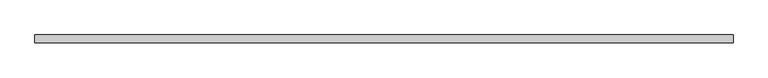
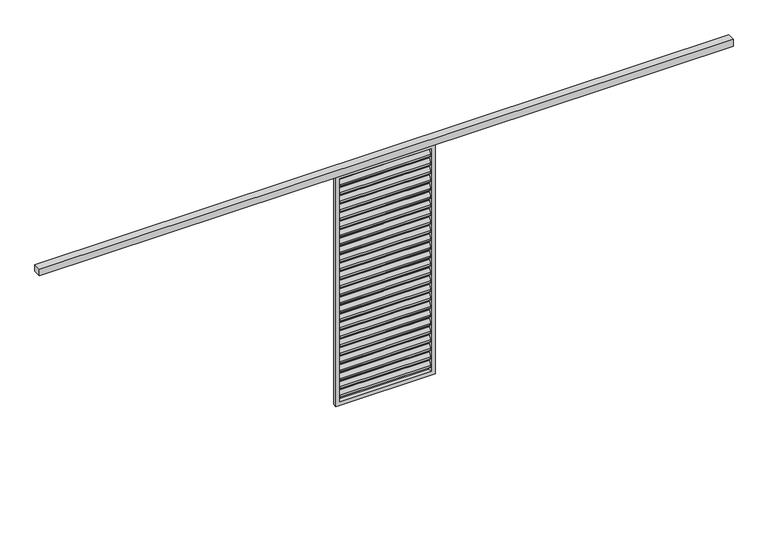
"""IFC4 building model written with IfcOpenShell, lengths in millimetres: proxy geometry, Renson_Amani_Loggia_Paro_Aluminium_Fix : Renson_Amani_Loggia_Paro_Aluminium_Fix."""

from ifc_helpers import new_model, si_unit, point, frame, frame_2d, origin, place, context, project, spatial, polyline, circle_curve, trimmed, segment, composite_curve, outline, extrude, source, transform, mapped, element, save


def generic_models_a1b20559(model_context):
    return source(origin(), model_context, "Body", "SweptSolid", [
        extrude(outline(polyline([(3500.0, 46.0), (3500.0, -34.0), (-3500.0, -34.0), (-3500.0, 46.0), (3500.0, 46.0)])), frame((0.0, 0.0, 2500.0), z_axis=(0.0, 0.0, 1.0), x_axis=(1.0, 0.0, 0.0)), (0.0, 0.0, 1.0), 70.0),
        extrude(outline(composite_curve([segment(trimmed(circle_curve(frame_2d((12.6675921, 2432.6587719)), 3.0), [point((10.1515804, 2434.292689))], [point((15.6675921, 2432.6587719))], False, "CARTESIAN"), True, "CONTINUOUS"), segment(polyline([(15.6675921, 2432.6587719), (15.6675921, 2414.2979873)]), True, "CONTINUOUS"), segment(trimmed(circle_curve(frame_2d((12.6675921, 2414.2979873)), 3.0), [point((15.6675921, 2414.2979873))], [point((15.1836038, 2412.6640702))], False, "CARTESIAN"), True, "CONTINUOUS"), segment(polyline([(15.1836038, 2412.6640702), (-8.8163962, 2375.707311)]), True, "CONTINUOUS"), segment(trimmed(circle_curve(frame_2d((-11.3324079, 2377.3412281)), 3.0), [point((-8.8163962, 2375.707311))], [point((-14.3324079, 2377.3412281))], False, "CARTESIAN"), True, "CONTINUOUS"), segment(polyline([(-14.3324079, 2377.3412281), (-14.3324079, 2396.5906532), (10.1515804, 2434.292689)]), True, "CONTINUOUS")], self_intersect=False)), frame((-460.0, 0.0, 0.0), z_axis=(1.0, 0.0, 0.0), x_axis=(0.0, 1.0, 0.0)), (0.0, 0.0, 1.0), 920.0),
        extrude(outline(composite_curve([segment(trimmed(circle_curve(frame_2d((12.6675921, 2342.6587719)), 3.0), [point((10.1515804, 2344.292689))], [point((15.6675921, 2342.6587719))], False, "CARTESIAN"), True, "CONTINUOUS"), segment(polyline([(15.6675921, 2342.6587719), (15.6675921, 2324.2979873)]), True, "CONTINUOUS"), segment(trimmed(circle_curve(frame_2d((12.6675921, 2324.2979873)), 3.0), [point((15.6675921, 2324.2979873))], [point((15.1836038, 2322.6640702))], False, "CARTESIAN"), True, "CONTINUOUS"), segment(polyline([(15.1836038, 2322.6640702), (-8.8163962, 2285.707311)]), True, "CONTINUOUS"), segment(trimmed(circle_curve(frame_2d((-11.3324079, 2287.3412281)), 3.0), [point((-8.8163962, 2285.707311))], [point((-14.3324079, 2287.3412281))], False, "CARTESIAN"), True, "CONTINUOUS"), segment(polyline([(-14.3324079, 2287.3412281), (-14.3324079, 2306.5906532), (10.1515804, 2344.292689)]), True, "CONTINUOUS")], self_intersect=False)), frame((-460.0, 0.0, 0.0), z_axis=(1.0, 0.0, 0.0), x_axis=(0.0, 1.0, 0.0)), (0.0, 0.0, 1.0), 920.0),
        extrude(outline(composite_curve([segment(trimmed(circle_curve(frame_2d((12.6675921, 2252.6587719)), 3.0), [point((10.1515804, 2254.292689))], [point((15.6675921, 2252.6587719))], False, "CARTESIAN"), True, "CONTINUOUS"), segment(polyline([(15.6675921, 2252.6587719), (15.6675921, 2234.2979873)]), True, "CONTINUOUS"), segment(trimmed(circle_curve(frame_2d((12.6675921, 2234.2979873)), 3.0), [point((15.6675921, 2234.2979873))], [point((15.1836038, 2232.6640702))], False, "CARTESIAN"), True, "CONTINUOUS"), segment(polyline([(15.1836038, 2232.6640702), (-8.8163962, 2195.707311)]), True, "CONTINUOUS"), segment(trimmed(circle_curve(frame_2d((-11.3324079, 2197.3412281)), 3.0), [point((-8.8163962, 2195.707311))], [point((-14.3324079, 2197.3412281))], False, "CARTESIAN"), True, "CONTINUOUS"), segment(polyline([(-14.3324079, 2197.3412281), (-14.3324079, 2216.5906532), (10.1515804, 2254.292689)]), True, "CONTINUOUS")], self_intersect=False)), frame((-460.0, 0.0, 0.0), z_axis=(1.0, 0.0, 0.0), x_axis=(0.0, 1.0, 0.0)), (0.0, 0.0, 1.0), 920.0),
        extrude(outline(composite_curve([segment(trimmed(circle_curve(frame_2d((12.6675921, 2162.6587719)), 3.0), [point((10.1515804, 2164.292689))], [point((15.6675921, 2162.6587719))], False, "CARTESIAN"), True, "CONTINUOUS"), segment(polyline([(15.6675921, 2162.6587719), (15.6675921, 2144.2979873)]), True, "CONTINUOUS"), segment(trimmed(circle_curve(frame_2d((12.6675921, 2144.2979873)), 3.0), [point((15.6675921, 2144.2979873))], [point((15.1836038, 2142.6640702))], False, "CARTESIAN"), True, "CONTINUOUS"), segment(polyline([(15.1836038, 2142.6640702), (-8.8163962, 2105.707311)]), True, "CONTINUOUS"), segment(trimmed(circle_curve(frame_2d((-11.3324079, 2107.3412281)), 3.0), [point((-8.8163962, 2105.707311))], [point((-14.3324079, 2107.3412281))], False, "CARTESIAN"), True, "CONTINUOUS"), segment(polyline([(-14.3324079, 2107.3412281), (-14.3324079, 2126.5906532), (10.1515804, 2164.292689)]), True, "CONTINUOUS")], self_intersect=False)), frame((-460.0, 0.0, 0.0), z_axis=(1.0, 0.0, 0.0), x_axis=(0.0, 1.0, 0.0)), (0.0, 0.0, 1.0), 920.0),
        extrude(outline(composite_curve([segment(trimmed(circle_curve(frame_2d((12.6675921, 2072.6587719)), 3.0), [point((10.1515804, 2074.292689))], [point((15.6675921, 2072.6587719))], False, "CARTESIAN"), True, "CONTINUOUS"), segment(polyline([(15.6675921, 2072.6587719), (15.6675921, 2054.2979873)]), True, "CONTINUOUS"), segment(trimmed(circle_curve(frame_2d((12.6675921, 2054.2979873)), 3.0), [point((15.6675921, 2054.2979873))], [point((15.1836038, 2052.6640702))], False, "CARTESIAN"), True, "CONTINUOUS"), segment(polyline([(15.1836038, 2052.6640702), (-8.8163962, 2015.707311)]), True, "CONTINUOUS"), segment(trimmed(circle_curve(frame_2d((-11.3324079, 2017.3412281)), 3.0), [point((-8.8163962, 2015.707311))], [point((-14.3324079, 2017.3412281))], False, "CARTESIAN"), True, "CONTINUOUS"), segment(polyline([(-14.3324079, 2017.3412281), (-14.3324079, 2036.5906532), (10.1515804, 2074.292689)]), True, "CONTINUOUS")], self_intersect=False)), frame((-460.0, 0.0, 0.0), z_axis=(1.0, 0.0, 0.0), x_axis=(0.0, 1.0, 0.0)), (0.0, 0.0, 1.0), 920.0),
        extrude(outline(composite_curve([segment(trimmed(circle_curve(frame_2d((12.6675921, 1982.6587719)), 3.0), [point((10.1515804, 1984.292689))], [point((15.6675921, 1982.6587719))], False, "CARTESIAN"), True, "CONTINUOUS"), segment(polyline([(15.6675921, 1982.6587719), (15.6675921, 1964.2979873)]), True, "CONTINUOUS"), segment(trimmed(circle_curve(frame_2d((12.6675921, 1964.2979873)), 3.0), [point((15.6675921, 1964.2979873))], [point((15.1836038, 1962.6640702))], False, "CARTESIAN"), True, "CONTINUOUS"), segment(polyline([(15.1836038, 1962.6640702), (-8.8163962, 1925.707311)]), True, "CONTINUOUS"), segment(trimmed(circle_curve(frame_2d((-11.3324079, 1927.3412281)), 3.0), [point((-8.8163962, 1925.707311))], [point((-14.3324079, 1927.3412281))], False, "CARTESIAN"), True, "CONTINUOUS"), segment(polyline([(-14.3324079, 1927.3412281), (-14.3324079, 1946.5906532), (10.1515804, 1984.292689)]), True, "CONTINUOUS")], self_intersect=False)), frame((-460.0, 0.0, 0.0), z_axis=(1.0, 0.0, 0.0), x_axis=(0.0, 1.0, 0.0)), (0.0, 0.0, 1.0), 920.0),
        extrude(outline(composite_curve([segment(trimmed(circle_curve(frame_2d((12.6675921, 1892.6587719)), 3.0), [point((10.1515804, 1894.292689))], [point((15.6675921, 1892.6587719))], False, "CARTESIAN"), True, "CONTINUOUS"), segment(polyline([(15.6675921, 1892.6587719), (15.6675921, 1874.2979873)]), True, "CONTINUOUS"), segment(trimmed(circle_curve(frame_2d((12.6675921, 1874.2979873)), 3.0), [point((15.6675921, 1874.2979873))], [point((15.1836038, 1872.6640702))], False, "CARTESIAN"), True, "CONTINUOUS"), segment(polyline([(15.1836038, 1872.6640702), (-8.8163962, 1835.707311)]), True, "CONTINUOUS"), segment(trimmed(circle_curve(frame_2d((-11.3324079, 1837.3412281)), 3.0), [point((-8.8163962, 1835.707311))], [point((-14.3324079, 1837.3412281))], False, "CARTESIAN"), True, "CONTINUOUS"), segment(polyline([(-14.3324079, 1837.3412281), (-14.3324079, 1856.5906532), (10.1515804, 1894.292689)]), True, "CONTINUOUS")], self_intersect=False)), frame((-460.0, 0.0, 0.0), z_axis=(1.0, 0.0, 0.0), x_axis=(0.0, 1.0, 0.0)), (0.0, 0.0, 1.0), 920.0),
        extrude(outline(composite_curve([segment(trimmed(circle_curve(frame_2d((12.6675921, 1802.6587719)), 3.0), [point((10.1515804, 1804.292689))], [point((15.6675921, 1802.6587719))], False, "CARTESIAN"), True, "CONTINUOUS"), segment(polyline([(15.6675921, 1802.6587719), (15.6675921, 1784.2979873)]), True, "CONTINUOUS"), segment(trimmed(circle_curve(frame_2d((12.6675921, 1784.2979873)), 3.0), [point((15.6675921, 1784.2979873))], [point((15.1836038, 1782.6640702))], False, "CARTESIAN"), True, "CONTINUOUS"), segment(polyline([(15.1836038, 1782.6640702), (-8.8163962, 1745.707311)]), True, "CONTINUOUS"), segment(trimmed(circle_curve(frame_2d((-11.3324079, 1747.3412281)), 3.0), [point((-8.8163962, 1745.707311))], [point((-14.3324079, 1747.3412281))], False, "CARTESIAN"), True, "CONTINUOUS"), segment(polyline([(-14.3324079, 1747.3412281), (-14.3324079, 1766.5906532), (10.1515804, 1804.292689)]), True, "CONTINUOUS")], self_intersect=False)), frame((-460.0, 0.0, 0.0), z_axis=(1.0, 0.0, 0.0), x_axis=(0.0, 1.0, 0.0)), (0.0, 0.0, 1.0), 920.0),
        extrude(outline(composite_curve([segment(trimmed(circle_curve(frame_2d((12.6675921, 1712.6587719)), 3.0), [point((10.1515804, 1714.292689))], [point((15.6675921, 1712.6587719))], False, "CARTESIAN"), True, "CONTINUOUS"), segment(polyline([(15.6675921, 1712.6587719), (15.6675921, 1694.2979873)]), True, "CONTINUOUS"), segment(trimmed(circle_curve(frame_2d((12.6675921, 1694.2979873)), 3.0), [point((15.6675921, 1694.2979873))], [point((15.1836038, 1692.6640702))], False, "CARTESIAN"), True, "CONTINUOUS"), segment(polyline([(15.1836038, 1692.6640702), (-8.8163962, 1655.707311)]), True, "CONTINUOUS"), segment(trimmed(circle_curve(frame_2d((-11.3324079, 1657.3412281)), 3.0), [point((-8.8163962, 1655.707311))], [point((-14.3324079, 1657.3412281))], False, "CARTESIAN"), True, "CONTINUOUS"), segment(polyline([(-14.3324079, 1657.3412281), (-14.3324079, 1676.5906532), (10.1515804, 1714.292689)]), True, "CONTINUOUS")], self_intersect=False)), frame((-460.0, 0.0, 0.0), z_axis=(1.0, 0.0, 0.0), x_axis=(0.0, 1.0, 0.0)), (0.0, 0.0, 1.0), 920.0),
        extrude(outline(composite_curve([segment(trimmed(circle_curve(frame_2d((12.6675921, 1622.6587719)), 3.0), [point((10.1515804, 1624.292689))], [point((15.6675921, 1622.6587719))], False, "CARTESIAN"), True, "CONTINUOUS"), segment(polyline([(15.6675921, 1622.6587719), (15.6675921, 1604.2979873)]), True, "CONTINUOUS"), segment(trimmed(circle_curve(frame_2d((12.6675921, 1604.2979873)), 3.0), [point((15.6675921, 1604.2979873))], [point((15.1836038, 1602.6640702))], False, "CARTESIAN"), True, "CONTINUOUS"), segment(polyline([(15.1836038, 1602.6640702), (-8.8163962, 1565.707311)]), True, "CONTINUOUS"), segment(trimmed(circle_curve(frame_2d((-11.3324079, 1567.3412281)), 3.0), [point((-8.8163962, 1565.707311))], [point((-14.3324079, 1567.3412281))], False, "CARTESIAN"), True, "CONTINUOUS"), segment(polyline([(-14.3324079, 1567.3412281), (-14.3324079, 1586.5906532), (10.1515804, 1624.292689)]), True, "CONTINUOUS")], self_intersect=False)), frame((-460.0, 0.0, 0.0), z_axis=(1.0, 0.0, 0.0), x_axis=(0.0, 1.0, 0.0)), (0.0, 0.0, 1.0), 920.0),
        extrude(outline(composite_curve([segment(trimmed(circle_curve(frame_2d((12.6675921, 1532.6587719)), 3.0), [point((10.1515804, 1534.292689))], [point((15.6675921, 1532.6587719))], False, "CARTESIAN"), True, "CONTINUOUS"), segment(polyline([(15.6675921, 1532.6587719), (15.6675921, 1514.2979873)]), True, "CONTINUOUS"), segment(trimmed(circle_curve(frame_2d((12.6675921, 1514.2979873)), 3.0), [point((15.6675921, 1514.2979873))], [point((15.1836038, 1512.6640702))], False, "CARTESIAN"), True, "CONTINUOUS"), segment(polyline([(15.1836038, 1512.6640702), (-8.8163962, 1475.707311)]), True, "CONTINUOUS"), segment(trimmed(circle_curve(frame_2d((-11.3324079, 1477.3412281)), 3.0), [point((-8.8163962, 1475.707311))], [point((-14.3324079, 1477.3412281))], False, "CARTESIAN"), True, "CONTINUOUS"), segment(polyline([(-14.3324079, 1477.3412281), (-14.3324079, 1496.5906532), (10.1515804, 1534.292689)]), True, "CONTINUOUS")], self_intersect=False)), frame((-460.0, 0.0, 0.0), z_axis=(1.0, 0.0, 0.0), x_axis=(0.0, 1.0, 0.0)), (0.0, 0.0, 1.0), 920.0),
        extrude(outline(composite_curve([segment(trimmed(circle_curve(frame_2d((12.6675921, 1442.6587719)), 3.0), [point((10.1515804, 1444.292689))], [point((15.6675921, 1442.6587719))], False, "CARTESIAN"), True, "CONTINUOUS"), segment(polyline([(15.6675921, 1442.6587719), (15.6675921, 1424.2979873)]), True, "CONTINUOUS"), segment(trimmed(circle_curve(frame_2d((12.6675921, 1424.2979873)), 3.0), [point((15.6675921, 1424.2979873))], [point((15.1836038, 1422.6640702))], False, "CARTESIAN"), True, "CONTINUOUS"), segment(polyline([(15.1836038, 1422.6640702), (-8.8163962, 1385.707311)]), True, "CONTINUOUS"), segment(trimmed(circle_curve(frame_2d((-11.3324079, 1387.3412281)), 3.0), [point((-8.8163962, 1385.707311))], [point((-14.3324079, 1387.3412281))], False, "CARTESIAN"), True, "CONTINUOUS"), segment(polyline([(-14.3324079, 1387.3412281), (-14.3324079, 1406.5906532), (10.1515804, 1444.292689)]), True, "CONTINUOUS")], self_intersect=False)), frame((-460.0, 0.0, 0.0), z_axis=(1.0, 0.0, 0.0), x_axis=(0.0, 1.0, 0.0)), (0.0, 0.0, 1.0), 920.0),
        extrude(outline(composite_curve([segment(trimmed(circle_curve(frame_2d((12.6675921, 1352.6587719)), 3.0), [point((10.1515804, 1354.292689))], [point((15.6675921, 1352.6587719))], False, "CARTESIAN"), True, "CONTINUOUS"), segment(polyline([(15.6675921, 1352.6587719), (15.6675921, 1334.2979873)]), True, "CONTINUOUS"), segment(trimmed(circle_curve(frame_2d((12.6675921, 1334.2979873)), 3.0), [point((15.6675921, 1334.2979873))], [point((15.1836038, 1332.6640702))], False, "CARTESIAN"), True, "CONTINUOUS"), segment(polyline([(15.1836038, 1332.6640702), (-8.8163962, 1295.707311)]), True, "CONTINUOUS"), segment(trimmed(circle_curve(frame_2d((-11.3324079, 1297.3412281)), 3.0), [point((-8.8163962, 1295.707311))], [point((-14.3324079, 1297.3412281))], False, "CARTESIAN"), True, "CONTINUOUS"), segment(polyline([(-14.3324079, 1297.3412281), (-14.3324079, 1316.5906532), (10.1515804, 1354.292689)]), True, "CONTINUOUS")], self_intersect=False)), frame((-460.0, 0.0, 0.0), z_axis=(1.0, 0.0, 0.0), x_axis=(0.0, 1.0, 0.0)), (0.0, 0.0, 1.0), 920.0),
        extrude(outline(composite_curve([segment(trimmed(circle_curve(frame_2d((12.6675921, 1262.6587719)), 3.0), [point((10.1515804, 1264.292689))], [point((15.6675921, 1262.6587719))], False, "CARTESIAN"), True, "CONTINUOUS"), segment(polyline([(15.6675921, 1262.6587719), (15.6675921, 1244.2979873)]), True, "CONTINUOUS"), segment(trimmed(circle_curve(frame_2d((12.6675921, 1244.2979873)), 3.0), [point((15.6675921, 1244.2979873))], [point((15.1836038, 1242.6640702))], False, "CARTESIAN"), True, "CONTINUOUS"), segment(polyline([(15.1836038, 1242.6640702), (-8.8163962, 1205.707311)]), True, "CONTINUOUS"), segment(trimmed(circle_curve(frame_2d((-11.3324079, 1207.3412281)), 3.0), [point((-8.8163962, 1205.707311))], [point((-14.3324079, 1207.3412281))], False, "CARTESIAN"), True, "CONTINUOUS"), segment(polyline([(-14.3324079, 1207.3412281), (-14.3324079, 1226.5906532), (10.1515804, 1264.292689)]), True, "CONTINUOUS")], self_intersect=False)), frame((-460.0, 0.0, 0.0), z_axis=(1.0, 0.0, 0.0), x_axis=(0.0, 1.0, 0.0)), (0.0, 0.0, 1.0), 920.0),
        extrude(outline(composite_curve([segment(trimmed(circle_curve(frame_2d((12.6675921, 1172.6587719)), 3.0), [point((10.1515804, 1174.292689))], [point((15.6675921, 1172.6587719))], False, "CARTESIAN"), True, "CONTINUOUS"), segment(polyline([(15.6675921, 1172.6587719), (15.6675921, 1154.2979873)]), True, "CONTINUOUS"), segment(trimmed(circle_curve(frame_2d((12.6675921, 1154.2979873)), 3.0), [point((15.6675921, 1154.2979873))], [point((15.1836038, 1152.6640702))], False, "CARTESIAN"), True, "CONTINUOUS"), segment(polyline([(15.1836038, 1152.6640702), (-8.8163962, 1115.707311)]), True, "CONTINUOUS"), segment(trimmed(circle_curve(frame_2d((-11.3324079, 1117.3412281)), 3.0), [point((-8.8163962, 1115.707311))], [point((-14.3324079, 1117.3412281))], False, "CARTESIAN"), True, "CONTINUOUS"), segment(polyline([(-14.3324079, 1117.3412281), (-14.3324079, 1136.5906532), (10.1515804, 1174.292689)]), True, "CONTINUOUS")], self_intersect=False)), frame((-460.0, 0.0, 0.0), z_axis=(1.0, 0.0, 0.0), x_axis=(0.0, 1.0, 0.0)), (0.0, 0.0, 1.0), 920.0),
        extrude(outline(composite_curve([segment(trimmed(circle_curve(frame_2d((12.6675921, 1082.6587719)), 3.0), [point((10.1515804, 1084.292689))], [point((15.6675921, 1082.6587719))], False, "CARTESIAN"), True, "CONTINUOUS"), segment(polyline([(15.6675921, 1082.6587719), (15.6675921, 1064.2979873)]), True, "CONTINUOUS"), segment(trimmed(circle_curve(frame_2d((12.6675921, 1064.2979873)), 3.0), [point((15.6675921, 1064.2979873))], [point((15.1836038, 1062.6640702))], False, "CARTESIAN"), True, "CONTINUOUS"), segment(polyline([(15.1836038, 1062.6640702), (-8.8163962, 1025.707311)]), True, "CONTINUOUS"), segment(trimmed(circle_curve(frame_2d((-11.3324079, 1027.3412281)), 3.0), [point((-8.8163962, 1025.707311))], [point((-14.3324079, 1027.3412281))], False, "CARTESIAN"), True, "CONTINUOUS"), segment(polyline([(-14.3324079, 1027.3412281), (-14.3324079, 1046.5906532), (10.1515804, 1084.292689)]), True, "CONTINUOUS")], self_intersect=False)), frame((-460.0, 0.0, 0.0), z_axis=(1.0, 0.0, 0.0), x_axis=(0.0, 1.0, 0.0)), (0.0, 0.0, 1.0), 920.0),
        extrude(outline(composite_curve([segment(trimmed(circle_curve(frame_2d((12.6675921, 992.6587719)), 3.0), [point((10.1515804, 994.292689))], [point((15.6675921, 992.6587719))], False, "CARTESIAN"), True, "CONTINUOUS"), segment(polyline([(15.6675921, 992.6587719), (15.6675921, 974.2979873)]), True, "CONTINUOUS"), segment(trimmed(circle_curve(frame_2d((12.6675921, 974.2979873)), 3.0), [point((15.6675921, 974.2979873))], [point((15.1836038, 972.6640702))], False, "CARTESIAN"), True, "CONTINUOUS"), segment(polyline([(15.1836038, 972.6640702), (-8.8163962, 935.707311)]), True, "CONTINUOUS"), segment(trimmed(circle_curve(frame_2d((-11.3324079, 937.3412281)), 3.0), [point((-8.8163962, 935.707311))], [point((-14.3324079, 937.3412281))], False, "CARTESIAN"), True, "CONTINUOUS"), segment(polyline([(-14.3324079, 937.3412281), (-14.3324079, 956.5906532), (10.1515804, 994.292689)]), True, "CONTINUOUS")], self_intersect=False)), frame((-460.0, 0.0, 0.0), z_axis=(1.0, 0.0, 0.0), x_axis=(0.0, 1.0, 0.0)), (0.0, 0.0, 1.0), 920.0),
        extrude(outline(composite_curve([segment(trimmed(circle_curve(frame_2d((12.6675921, 902.6587719)), 3.0), [point((10.1515804, 904.292689))], [point((15.6675921, 902.6587719))], False, "CARTESIAN"), True, "CONTINUOUS"), segment(polyline([(15.6675921, 902.6587719), (15.6675921, 884.2979873)]), True, "CONTINUOUS"), segment(trimmed(circle_curve(frame_2d((12.6675921, 884.2979873)), 3.0), [point((15.6675921, 884.2979873))], [point((15.1836038, 882.6640702))], False, "CARTESIAN"), True, "CONTINUOUS"), segment(polyline([(15.1836038, 882.6640702), (-8.8163962, 845.707311)]), True, "CONTINUOUS"), segment(trimmed(circle_curve(frame_2d((-11.3324079, 847.3412281)), 3.0), [point((-8.8163962, 845.707311))], [point((-14.3324079, 847.3412281))], False, "CARTESIAN"), True, "CONTINUOUS"), segment(polyline([(-14.3324079, 847.3412281), (-14.3324079, 866.5906532), (10.1515804, 904.292689)]), True, "CONTINUOUS")], self_intersect=False)), frame((-460.0, 0.0, 0.0), z_axis=(1.0, 0.0, 0.0), x_axis=(0.0, 1.0, 0.0)), (0.0, 0.0, 1.0), 920.0),
        extrude(outline(composite_curve([segment(trimmed(circle_curve(frame_2d((12.6675921, 812.6587719)), 3.0), [point((10.1515804, 814.292689))], [point((15.6675921, 812.6587719))], False, "CARTESIAN"), True, "CONTINUOUS"), segment(polyline([(15.6675921, 812.6587719), (15.6675921, 794.2979873)]), True, "CONTINUOUS"), segment(trimmed(circle_curve(frame_2d((12.6675921, 794.2979873)), 3.0), [point((15.6675921, 794.2979873))], [point((15.1836038, 792.6640702))], False, "CARTESIAN"), True, "CONTINUOUS"), segment(polyline([(15.1836038, 792.6640702), (-8.8163962, 755.707311)]), True, "CONTINUOUS"), segment(trimmed(circle_curve(frame_2d((-11.3324079, 757.3412281)), 3.0), [point((-8.8163962, 755.707311))], [point((-14.3324079, 757.3412281))], False, "CARTESIAN"), True, "CONTINUOUS"), segment(polyline([(-14.3324079, 757.3412281), (-14.3324079, 776.5906532), (10.1515804, 814.292689)]), True, "CONTINUOUS")], self_intersect=False)), frame((-460.0, 0.0, 0.0), z_axis=(1.0, 0.0, 0.0), x_axis=(0.0, 1.0, 0.0)), (0.0, 0.0, 1.0), 920.0),
        extrude(outline(composite_curve([segment(trimmed(circle_curve(frame_2d((12.6675921, 722.6587719)), 3.0), [point((10.1515804, 724.292689))], [point((15.6675921, 722.6587719))], False, "CARTESIAN"), True, "CONTINUOUS"), segment(polyline([(15.6675921, 722.6587719), (15.6675921, 704.2979873)]), True, "CONTINUOUS"), segment(trimmed(circle_curve(frame_2d((12.6675921, 704.2979873)), 3.0), [point((15.6675921, 704.2979873))], [point((15.1836038, 702.6640702))], False, "CARTESIAN"), True, "CONTINUOUS"), segment(polyline([(15.1836038, 702.6640702), (-8.8163962, 665.707311)]), True, "CONTINUOUS"), segment(trimmed(circle_curve(frame_2d((-11.3324079, 667.3412281)), 3.0), [point((-8.8163962, 665.707311))], [point((-14.3324079, 667.3412281))], False, "CARTESIAN"), True, "CONTINUOUS"), segment(polyline([(-14.3324079, 667.3412281), (-14.3324079, 686.5906532), (10.1515804, 724.292689)]), True, "CONTINUOUS")], self_intersect=False)), frame((-460.0, 0.0, 0.0), z_axis=(1.0, 0.0, 0.0), x_axis=(0.0, 1.0, 0.0)), (0.0, 0.0, 1.0), 920.0),
        extrude(outline(composite_curve([segment(trimmed(circle_curve(frame_2d((12.6675921, 632.6587719)), 3.0), [point((10.1515804, 634.292689))], [point((15.6675921, 632.6587719))], False, "CARTESIAN"), True, "CONTINUOUS"), segment(polyline([(15.6675921, 632.6587719), (15.6675921, 614.2979873)]), True, "CONTINUOUS"), segment(trimmed(circle_curve(frame_2d((12.6675921, 614.2979873)), 3.0), [point((15.6675921, 614.2979873))], [point((15.1836038, 612.6640702))], False, "CARTESIAN"), True, "CONTINUOUS"), segment(polyline([(15.1836038, 612.6640702), (-8.8163962, 575.707311)]), True, "CONTINUOUS"), segment(trimmed(circle_curve(frame_2d((-11.3324079, 577.3412281)), 3.0), [point((-8.8163962, 575.707311))], [point((-14.3324079, 577.3412281))], False, "CARTESIAN"), True, "CONTINUOUS"), segment(polyline([(-14.3324079, 577.3412281), (-14.3324079, 596.5906532), (10.1515804, 634.292689)]), True, "CONTINUOUS")], self_intersect=False)), frame((-460.0, 0.0, 0.0), z_axis=(1.0, 0.0, 0.0), x_axis=(0.0, 1.0, 0.0)), (0.0, 0.0, 1.0), 920.0),
        extrude(outline(composite_curve([segment(trimmed(circle_curve(frame_2d((12.6675921, 542.6587719)), 3.0), [point((10.1515804, 544.292689))], [point((15.6675921, 542.6587719))], False, "CARTESIAN"), True, "CONTINUOUS"), segment(polyline([(15.6675921, 542.6587719), (15.6675921, 524.2979873)]), True, "CONTINUOUS"), segment(trimmed(circle_curve(frame_2d((12.6675921, 524.2979873)), 3.0), [point((15.6675921, 524.2979873))], [point((15.1836038, 522.6640702))], False, "CARTESIAN"), True, "CONTINUOUS"), segment(polyline([(15.1836038, 522.6640702), (-8.8163962, 485.707311)]), True, "CONTINUOUS"), segment(trimmed(circle_curve(frame_2d((-11.3324079, 487.3412281)), 3.0), [point((-8.8163962, 485.707311))], [point((-14.3324079, 487.3412281))], False, "CARTESIAN"), True, "CONTINUOUS"), segment(polyline([(-14.3324079, 487.3412281), (-14.3324079, 506.5906532), (10.1515804, 544.292689)]), True, "CONTINUOUS")], self_intersect=False)), frame((-460.0, 0.0, 0.0), z_axis=(1.0, 0.0, 0.0), x_axis=(0.0, 1.0, 0.0)), (0.0, 0.0, 1.0), 920.0),
        extrude(outline(composite_curve([segment(trimmed(circle_curve(frame_2d((12.6675921, 452.6587719)), 3.0), [point((10.1515804, 454.292689))], [point((15.6675921, 452.6587719))], False, "CARTESIAN"), True, "CONTINUOUS"), segment(polyline([(15.6675921, 452.6587719), (15.6675921, 434.2979873)]), True, "CONTINUOUS"), segment(trimmed(circle_curve(frame_2d((12.6675921, 434.2979873)), 3.0), [point((15.6675921, 434.2979873))], [point((15.1836038, 432.6640702))], False, "CARTESIAN"), True, "CONTINUOUS"), segment(polyline([(15.1836038, 432.6640702), (-8.8163962, 395.707311)]), True, "CONTINUOUS"), segment(trimmed(circle_curve(frame_2d((-11.3324079, 397.3412281)), 3.0), [point((-8.8163962, 395.707311))], [point((-14.3324079, 397.3412281))], False, "CARTESIAN"), True, "CONTINUOUS"), segment(polyline([(-14.3324079, 397.3412281), (-14.3324079, 416.5906532), (10.1515804, 454.292689)]), True, "CONTINUOUS")], self_intersect=False)), frame((-460.0, 0.0, 0.0), z_axis=(1.0, 0.0, 0.0), x_axis=(0.0, 1.0, 0.0)), (0.0, 0.0, 1.0), 920.0),
        extrude(outline(composite_curve([segment(trimmed(circle_curve(frame_2d((12.6675921, 362.6587719)), 3.0), [point((10.1515804, 364.292689))], [point((15.6675921, 362.6587719))], False, "CARTESIAN"), True, "CONTINUOUS"), segment(polyline([(15.6675921, 362.6587719), (15.6675921, 344.2979873)]), True, "CONTINUOUS"), segment(trimmed(circle_curve(frame_2d((12.6675921, 344.2979873)), 3.0), [point((15.6675921, 344.2979873))], [point((15.1836038, 342.6640702))], False, "CARTESIAN"), True, "CONTINUOUS"), segment(polyline([(15.1836038, 342.6640702), (-8.8163962, 305.707311)]), True, "CONTINUOUS"), segment(trimmed(circle_curve(frame_2d((-11.3324079, 307.3412281)), 3.0), [point((-8.8163962, 305.707311))], [point((-14.3324079, 307.3412281))], False, "CARTESIAN"), True, "CONTINUOUS"), segment(polyline([(-14.3324079, 307.3412281), (-14.3324079, 326.5906532), (10.1515804, 364.292689)]), True, "CONTINUOUS")], self_intersect=False)), frame((-460.0, 0.0, 0.0), z_axis=(1.0, 0.0, 0.0), x_axis=(0.0, 1.0, 0.0)), (0.0, 0.0, 1.0), 920.0),
        extrude(outline(composite_curve([segment(trimmed(circle_curve(frame_2d((12.6675921, 272.6587719)), 3.0), [point((10.1515804, 274.292689))], [point((15.6675921, 272.6587719))], False, "CARTESIAN"), True, "CONTINUOUS"), segment(polyline([(15.6675921, 272.6587719), (15.6675921, 254.2979873)]), True, "CONTINUOUS"), segment(trimmed(circle_curve(frame_2d((12.6675921, 254.2979873)), 3.0), [point((15.6675921, 254.2979873))], [point((15.1836038, 252.6640702))], False, "CARTESIAN"), True, "CONTINUOUS"), segment(polyline([(15.1836038, 252.6640702), (-8.8163962, 215.707311)]), True, "CONTINUOUS"), segment(trimmed(circle_curve(frame_2d((-11.3324079, 217.3412281)), 3.0), [point((-8.8163962, 215.707311))], [point((-14.3324079, 217.3412281))], False, "CARTESIAN"), True, "CONTINUOUS"), segment(polyline([(-14.3324079, 217.3412281), (-14.3324079, 236.5906532), (10.1515804, 274.292689)]), True, "CONTINUOUS")], self_intersect=False)), frame((-460.0, 0.0, 0.0), z_axis=(1.0, 0.0, 0.0), x_axis=(0.0, 1.0, 0.0)), (0.0, 0.0, 1.0), 920.0),
        extrude(outline(composite_curve([segment(trimmed(circle_curve(frame_2d((12.6675921, 182.6587719)), 3.0), [point((10.1515804, 184.292689))], [point((15.6675921, 182.6587719))], False, "CARTESIAN"), True, "CONTINUOUS"), segment(polyline([(15.6675921, 182.6587719), (15.6675921, 164.2979873)]), True, "CONTINUOUS"), segment(trimmed(circle_curve(frame_2d((12.6675921, 164.2979873)), 3.0), [point((15.6675921, 164.2979873))], [point((15.1836038, 162.6640702))], False, "CARTESIAN"), True, "CONTINUOUS"), segment(polyline([(15.1836038, 162.6640702), (-8.8163962, 125.707311)]), True, "CONTINUOUS"), segment(trimmed(circle_curve(frame_2d((-11.3324079, 127.3412281)), 3.0), [point((-8.8163962, 125.707311))], [point((-14.3324079, 127.3412281))], False, "CARTESIAN"), True, "CONTINUOUS"), segment(polyline([(-14.3324079, 127.3412281), (-14.3324079, 146.5906532), (10.1515804, 184.292689)]), True, "CONTINUOUS")], self_intersect=False)), frame((-460.0, 0.0, 0.0), z_axis=(1.0, 0.0, 0.0), x_axis=(0.0, 1.0, 0.0)), (0.0, 0.0, 1.0), 920.0),
        extrude(outline(polyline([(2500.0, -500.0), (45.0, -500.0), (45.0, 500.0), (2500.0, 500.0), (2500.0, -500.0)]), holes=[polyline([(2460.0, 460.0), (85.0, 460.0), (85.0, -460.0), (2460.0, -460.0), (2460.0, 460.0)])]), frame((0.0, -20.0, 0.0), z_axis=(0.0, 1.0, 0.0), x_axis=(0.0, 0.0, 1.0)), (0.0, 0.0, 1.0), 40.0),
    ])


if __name__ == "__main__":
    model = new_model("IFC4")
    model_context = context("Model", 3, world=origin())
    ifc_project = project(units=[si_unit("LENGTHUNIT", "METRE", prefix="MILLI")], contexts=[model_context])
    site = spatial("IfcSite", under=ifc_project)
    building = spatial("IfcBuilding", under=site)
    placement = place(None, origin())
    generic_models_shape = generic_models_a1b20559(model_context)
    element("IfcBuildingElementProxy", 1, Name="Renson_Amani_Loggia_Paro_Aluminium_Fix : Renson_Amani_Loggia_Paro_Aluminium_Fix", ObjectType="Renson_Amani_Loggia_Paro_Aluminium_Fix : Renson_Amani_Loggia_Paro_Aluminium_Fix", at=placement, inside=building, context=model_context, shape_type="MappedRepresentation", body=[
        mapped(generic_models_shape, transform((0.0, 0.0, 0.0), x_axis=(1.0, 0.0, 0.0), y_axis=(0.0, 1.0, 0.0), z_axis=(0.0, 0.0, 1.0))),
    ])
    save(model, "model.ifc")
